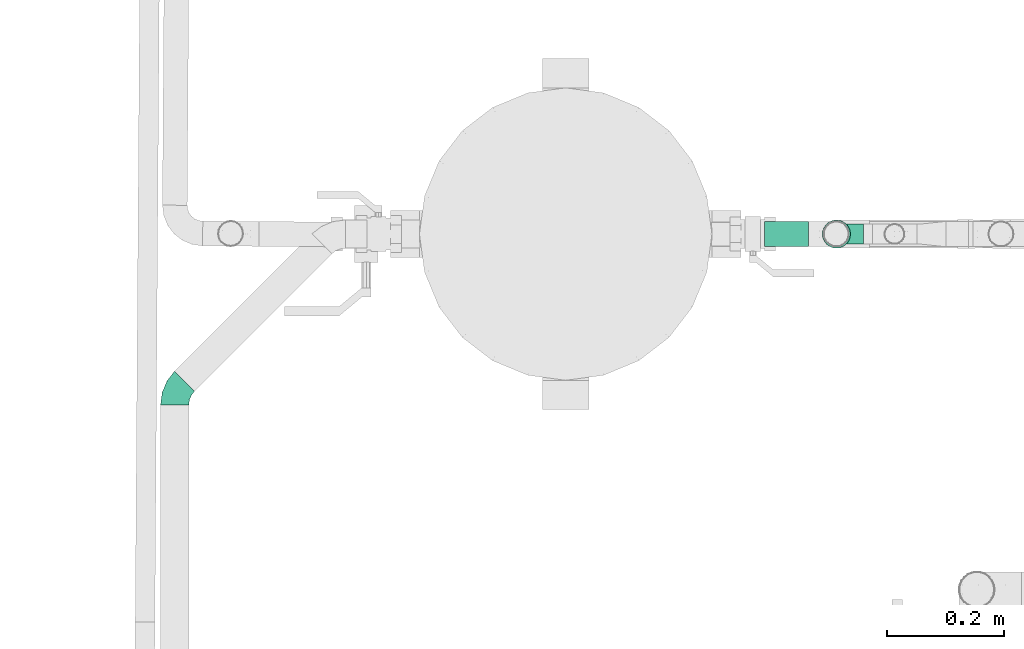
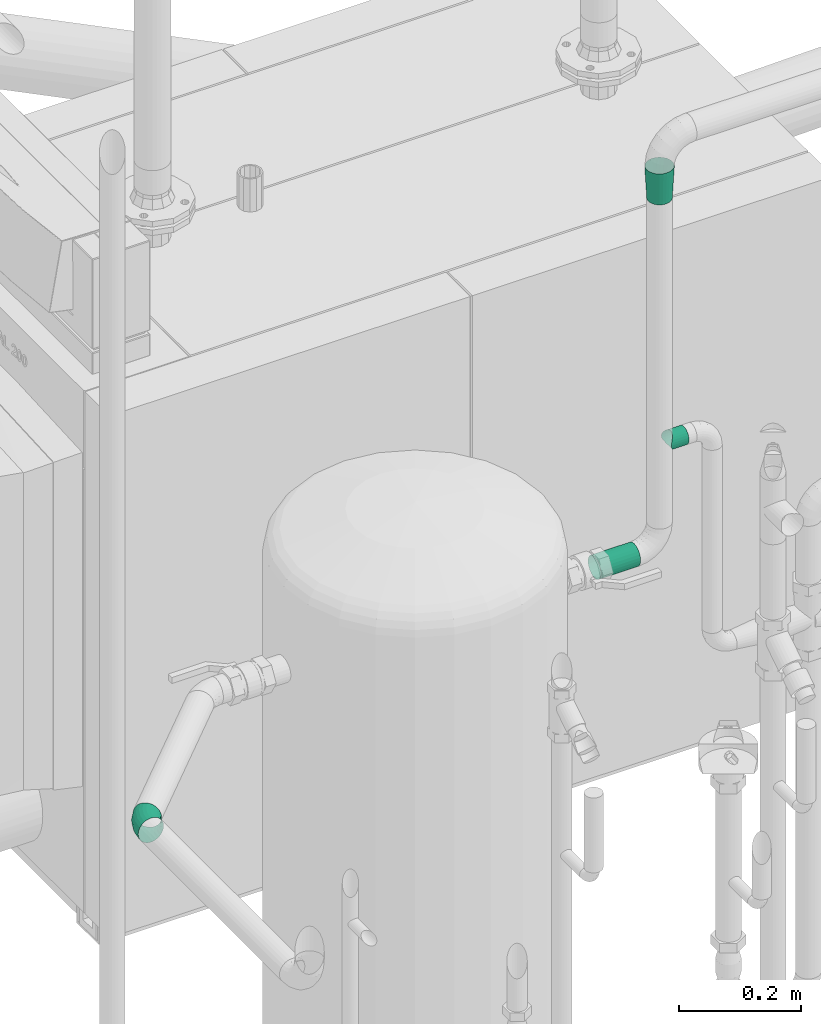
# One storey, part 349 of 374: 3 flow segments, 1 flow fitting.
"""IFC2X3 building model written with IfcOpenShell, lengths in metres."""

import ifcopenshell
import ifcopenshell.guid

model = None  # the IFC model being written
_history = None  # IfcOwnerHistory: only IFC2X3 demands one
_inside = {}  # id of a spatial element -> (the spatial element, [elements in it])
_under = {}  # id of a project, library or spatial element -> (it, [spatial elements below it])
_declared = {}  # id of a project -> (the project, [libraries it declares])
_typed = {}  # id of a type object -> (the type object, [elements of that type])
_made_of = {}  # id of a material, layer set ... -> (it, [elements and type objects made of it])


def new_model(schema):
    """Start an empty IFC model of exactly this schema.

    Asked for "IFC4X3", IfcOpenShell would pick the latest addendum, in which some entities
    have other attributes; the version numbers below select the first issue.
    IFC2X3 requires an IfcOwnerHistory on every rooted entity: one is made here for all.
    """
    global model, _history
    if schema == "IFC4X3":
        model = ifcopenshell.file(schema_version=(4, 3, 0, 0))
    else:
        model = ifcopenshell.file(schema=schema)
    _inside.clear()
    _under.clear()
    _declared.clear()
    _typed.clear()
    _made_of.clear()
    _history = None
    if model.schema == "IFC2X3":
        org = make("IfcOrganization", Name="unknown")
        user = make(
            "IfcPersonAndOrganization",
            ThePerson=make("IfcPerson", FamilyName="unknown"),
            TheOrganization=org,
        )
        app = make(
            "IfcApplication",
            ApplicationDeveloper=org,
            Version="unknown",
            ApplicationFullName="unknown",
            ApplicationIdentifier="unknown",
        )
        _history = make(
            "IfcOwnerHistory",
            OwningUser=user,
            OwningApplication=app,
            ChangeAction="ADDED",
            CreationDate=0,
        )
    return model


def make(cls, **values):
    """One entity of the class cls with the attributes given. An attribute that is None is left unset."""
    return model.create_entity(
        cls, **{name: value for name, value in values.items() if value is not None}
    )


def rooted(cls, **values):
    """An entity with a GlobalId (a new one), such as an element, a storey or a relation."""
    return make(cls, GlobalId=ifcopenshell.guid.new(), OwnerHistory=_history, **values)


def si_unit(unit_type, name, prefix=None):
    """IfcSIUnit, for example si_unit("LENGTHUNIT", "METRE", prefix="MILLI")."""
    return make("IfcSIUnit", UnitType=unit_type, Prefix=prefix, Name=name)


def assignment(units):
    """IfcUnitAssignment: the units of a project."""
    return None if units is None else make("IfcUnitAssignment", Units=units)


def point(xyz):
    """IfcCartesianPoint."""
    return None if xyz is None else make("IfcCartesianPoint", Coordinates=xyz)


def direction(xyz):
    """IfcDirection."""
    return None if xyz is None else make("IfcDirection", DirectionRatios=xyz)


def frame(location, z_axis=None, x_axis=None):
    """IfcAxis2Placement3D, a coordinate frame: its origin and axes. An axis left out is left unset."""
    return make(
        "IfcAxis2Placement3D",
        Location=point(location),
        Axis=direction(z_axis),
        RefDirection=direction(x_axis),
    )


def origin():
    """The frame at (0, 0, 0) with its axes left unset."""
    return frame((0.0, 0.0, 0.0))


def place(relative_to, where):
    """IfcLocalPlacement: puts the frame where relative to a parent placement (None: the world)."""
    return make(
        "IfcLocalPlacement", PlacementRelTo=relative_to, RelativePlacement=where
    )


def context(
    kind, dimensions, precision=None, world=None, true_north=None, identifier=None
):
    """IfcGeometricRepresentationContext, for example the 3D "Model" context."""
    return make(
        "IfcGeometricRepresentationContext",
        ContextIdentifier=identifier,
        ContextType=kind,
        CoordinateSpaceDimension=dimensions,
        Precision=precision,
        WorldCoordinateSystem=world,
        TrueNorth=true_north,
    )


def subcontext(parent, identifier, kind, view, scale=None):
    """IfcGeometricRepresentationSubContext, for example "Body" below "Model"."""
    return make(
        "IfcGeometricRepresentationSubContext",
        ContextIdentifier=identifier,
        ContextType=kind,
        ParentContext=parent,
        TargetScale=scale,
        TargetView=view,
    )


def project(units=None, contexts=None):
    """IfcProject with its units and contexts."""
    return rooted(
        "IfcProject",
        Name="project",
        RepresentationContexts=contexts,
        UnitsInContext=assignment(units),
    )


def spatial(cls, under=None, at=None, **own):
    """A site, building, storey or space (cls), placed at a placement, below another one or the project."""
    s = rooted(cls, ObjectPlacement=at, **own)
    if under is not None:
        _under.setdefault(under.id(), (under, []))[1].append(s)
    return s


def faces_of(points, faces, orient=None, outer=None):
    """IfcFace entities. A face is a list of loops; a loop is a list of indices into points, from 0.

    orient and outer hold one flag for each loop. By default every Orientation is true, the
    first loop of a face is its IfcFaceOuterBound and the others are IfcFaceBound.
    """
    made = []
    for i, loops in enumerate(faces):
        bounds = []
        for j, loop in enumerate(loops):
            is_outer = j == 0 if outer is None else outer[i][j]
            bounds.append(
                make(
                    "IfcFaceOuterBound" if is_outer else "IfcFaceBound",
                    Bound=make("IfcPolyLoop", Polygon=[points[k] for k in loop]),
                    Orientation=True if orient is None else orient[i][j],
                )
            )
        made.append(make("IfcFace", Bounds=bounds))
    return made


def open_shell(faces, orient=None, outer=None):
    """The faces of one IfcOpenShell. surface_model builds it on its shared points."""
    return ("IfcOpenShell", faces, orient, outer)


def surface_model(cls, points, shells):
    """IfcFaceBasedSurfaceModel or IfcShellBasedSurfaceModel (cls): surfaces that need not close."""
    shared = [point(p) for p in points]
    made = [make(c, CfsFaces=faces_of(shared, fs, o, b)) for c, fs, o, b in shells]
    if cls == "IfcFaceBasedSurfaceModel":
        return make(cls, FbsmFaces=made)
    return make(cls, SbsmBoundary=made)


def shape(context_of_items, identifier, shape_type, items):
    """IfcShapeRepresentation: the items that make up one representation, for example the "Body"."""
    return make(
        "IfcShapeRepresentation",
        ContextOfItems=context_of_items,
        RepresentationIdentifier=identifier,
        RepresentationType=shape_type,
        Items=items,
    )


def source(mapping_origin, context_of_items, identifier, shape_type, items):
    """IfcRepresentationMap: a shape defined once, which mapped items show again and again."""
    return make(
        "IfcRepresentationMap",
        MappingOrigin=mapping_origin,
        MappedRepresentation=shape(context_of_items, identifier, shape_type, items),
    )


def transform(
    local_origin,
    x_axis=None,
    y_axis=None,
    z_axis=None,
    scale=None,
    scale2=None,
    scale3=None,
    uniform=True,
):
    """IfcCartesianTransformationOperator3D, or its non-uniform kind. x_axis, y_axis, z_axis: its Axis1, 2, 3."""
    if uniform:
        return make(
            "IfcCartesianTransformationOperator3D",
            Axis1=direction(x_axis),
            Axis2=direction(y_axis),
            LocalOrigin=point(local_origin),
            Scale=scale,
            Axis3=direction(z_axis),
        )
    return make(
        "IfcCartesianTransformationOperator3DnonUniform",
        Axis1=direction(x_axis),
        Axis2=direction(y_axis),
        LocalOrigin=point(local_origin),
        Scale=scale,
        Axis3=direction(z_axis),
        Scale2=scale2,
        Scale3=scale3,
    )


def mapped(mapping_source, mapping_target):
    """IfcMappedItem: shows the shape of a source again, moved by a transform."""
    return make(
        "IfcMappedItem", MappingSource=mapping_source, MappingTarget=mapping_target
    )


def made_of(thing, what):
    """Note that an element or type object is made of a material, layer set ...; save() writes the relation."""
    if what is not None:
        _made_of.setdefault(what.id(), (what, []))[1].append(thing)
    return thing


def element(
    cls,
    number,
    at=None,
    inside=None,
    cuts=None,
    type_object=None,
    material=None,
    context=None,
    identifier="Body",
    shape_type=None,
    held_by="IfcProductDefinitionShape",
    body=None,
    shapes=None,
    **own,
):
    """One element of the class cls, such as IfcWall. Its Tag is "e" and its number.

    at: its placement. inside: the storey or other place that contains it. cuts: it is an
    opening in that element (IfcRelVoidsElement). A single representation is given by context,
    identifier, shape_type and body (its items); several are given by shapes. held_by: the class
    of the entity that holds the representations. save() writes the other relations.
    """
    e = rooted(cls, Tag="e%d" % number, ObjectPlacement=at, **own)
    if body is not None:
        shapes = [shape(context, identifier, shape_type, body)]
    if shapes is not None:
        e.Representation = make(held_by, Representations=shapes)
    if inside is not None:
        _inside.setdefault(inside.id(), (inside, []))[1].append(e)
    if cuts is not None:
        rooted(
            "IfcRelVoidsElement", RelatingBuildingElement=cuts, RelatedOpeningElement=e
        )
    if type_object is not None:
        _typed.setdefault(type_object.id(), (type_object, []))[1].append(e)
    return made_of(e, material)


def aggregate(whole, parts):
    """IfcRelAggregates: a whole, such as a stair, and the parts it consists of."""
    return rooted("IfcRelAggregates", RelatingObject=whole, RelatedObjects=parts)


def save(model, path):
    """Write the relations noted so far, then the file.

    IfcRelAggregates (storeys below a building ...), IfcRelContainedInSpatialStructure (elements
    in a storey), IfcRelDefinesByType, IfcRelAssociatesMaterial and IfcRelDeclares: one each for
    every whole, place, type object, material and project.
    """
    for whole, parts in _under.values():
        aggregate(whole, parts)
    for where, things in _inside.values():
        rooted(
            "IfcRelContainedInSpatialStructure",
            RelatedElements=things,
            RelatingStructure=where,
        )
    for kind, things in _typed.values():
        rooted("IfcRelDefinesByType", RelatedObjects=things, RelatingType=kind)
    for what, things in _made_of.values():
        rooted("IfcRelAssociatesMaterial", RelatedObjects=things, RelatingMaterial=what)
    for by, libraries in _declared.values():
        rooted("IfcRelDeclares", RelatingContext=by, RelatedDefinitions=libraries)
    model.write(path)


model = new_model("IFC2X3")

# Units and contexts
model_context = context("Model", 3, precision=1e-05, world=origin(), true_north=direction((-0.4480736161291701, 0.8939966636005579)))
body_context = subcontext(model_context, "Body", "Model", "MODEL_VIEW")
ifc_project = project(units=[si_unit("LENGTHUNIT", "METRE"), si_unit("AREAUNIT", "SQUARE_METRE"), si_unit("VOLUMEUNIT", "CUBIC_METRE"), si_unit("PLANEANGLEUNIT", "RADIAN"), si_unit("THERMODYNAMICTEMPERATUREUNIT", "KELVIN"), si_unit("MASSUNIT", "GRAM", prefix="KILO"), si_unit("TIMEUNIT", "SECOND")], contexts=[model_context])

# Site, building, storey
site_placement = place(None, origin())
site = spatial("IfcSite", under=ifc_project, at=site_placement, Name="Site 1", CompositionType="ELEMENT")
building_placement = place(site_placement, origin())
building = spatial("IfcBuilding", under=site, at=building_placement, Name="Undefined", CompositionType="ELEMENT")
storey_placement = place(building_placement, origin())
storey = spatial("IfcBuildingStorey", under=building, at=storey_placement, Name="Rez de chauss\x8ee", CompositionType="ELEMENT", Elevation=0.0)

# Flow segment
shared_shape_1 = source(origin(), body_context, "Body", "SurfaceModel", [
    surface_model("IfcFaceBasedSurfaceModel", [(0.0, 0.005534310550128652, 0.0), (0.0, 0.0, 0.0), (0.07520000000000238, 1.776356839e-15, -5.5511151e-17), (0.07520000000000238, 0.005534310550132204, -5.5511151e-17), (0.0, -0.00534573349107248, -0.0014323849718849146), (0.07520000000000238, -0.005345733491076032, -0.0014323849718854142), (0.0, -0.010138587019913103, -0.004199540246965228), (0.07519999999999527, -0.010138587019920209, -0.004199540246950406), (0.0, -0.01405193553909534, -0.008112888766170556), (0.07519999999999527, -0.014051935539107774, -0.00811288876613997), (0.0, -0.016819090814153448, -0.012905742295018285), (0.07519999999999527, -0.016819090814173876, -0.01290574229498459), (0.0, -0.018251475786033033, -0.018251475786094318), (0.07519999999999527, -0.018251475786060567, -0.018251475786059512), (0.0, -0.0182514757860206, -0.02378578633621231), (0.07519999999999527, -0.01825147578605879, -0.023785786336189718), (0.0, -0.01681909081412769, -0.029131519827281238), (0.07519999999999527, -0.016819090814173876, -0.029131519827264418), (0.0, -0.014051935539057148, -0.03392437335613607), (0.07519999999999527, -0.01405193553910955, -0.03392437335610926), (0.0, -0.010138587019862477, -0.037837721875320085), (0.07520000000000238, -0.010138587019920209, -0.037837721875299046), (0.0, -0.005345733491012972, -0.040604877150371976), (0.07520000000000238, -0.005345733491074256, -0.04060487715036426), (0.0, 6.4837024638e-14, -0.042037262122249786), (0.07520000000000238, 1.776356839e-15, -0.04203726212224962), (0.0, 0.005534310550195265, -0.04203726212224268), (0.07520000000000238, 0.005534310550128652, -0.04203726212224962), (0.0, 0.010880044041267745, -0.04060487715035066), (0.07520000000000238, 0.01088004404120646, -0.04060487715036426), (0.0, 0.01567289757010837, -0.03783772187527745), (0.07520000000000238, 0.015672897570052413, -0.037837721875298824), (0.0, 0.019586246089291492, -0.033924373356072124), (0.07520000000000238, 0.019586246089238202, -0.03392437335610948), (0.0, 0.0223534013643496, -0.029131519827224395), (0.07520000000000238, 0.022353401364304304, -0.029131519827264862), (0.0, 0.02378578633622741, -0.023785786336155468), (0.07520000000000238, 0.023785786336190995, -0.02378578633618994), (0.0, 0.023785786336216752, -0.01825147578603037), (0.07520000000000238, 0.02378578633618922, -0.018251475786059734), (0.0, 0.022353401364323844, -0.012905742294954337), (0.07520000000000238, 0.022353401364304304, -0.012905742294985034), (0.0, 0.019586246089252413, -0.008112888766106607), (0.07520000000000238, 0.019586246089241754, -0.00811288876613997), (0.0, 0.015672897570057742, -0.004199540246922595), (0.07520000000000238, 0.015672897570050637, -0.004199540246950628), (0.0, 0.010880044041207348, -0.0014323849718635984), (0.07520000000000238, 0.010880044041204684, -0.0014323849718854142)], [open_shell([[[0, 1, 2, 3]], [[1, 4, 5, 2]], [[4, 6, 7, 5]], [[6, 8, 9, 7]], [[8, 10, 11, 9]], [[10, 12, 13, 11]], [[12, 14, 15, 13]], [[14, 16, 17, 15]], [[16, 18, 19, 17]], [[18, 20, 21, 19]], [[20, 22, 23, 21]], [[22, 24, 25, 23]], [[24, 26, 27, 25]], [[26, 28, 29, 27]], [[28, 30, 31, 29]], [[30, 32, 33, 31]], [[32, 34, 35, 33]], [[34, 36, 37, 35]], [[36, 38, 39, 37]], [[38, 40, 41, 39]], [[40, 42, 43, 41]], [[42, 44, 45, 43]], [[44, 46, 47, 45]], [[46, 0, 3, 47]]])]),
])
flow_segment_1_placement = place(storey_placement, origin())
element("IfcFlowSegment", 1, at=flow_segment_1_placement, inside=storey, Name="Tube acier d'après DIN 2448", ObjectType="Tube acier d'après DIN 2448", context=body_context, shape_type="MappedRepresentation", body=[
    mapped(shared_shape_1, transform((53.975737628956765, 11.702597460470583, 1.3904776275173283), x_axis=(1.0, 0.0, 0.0), y_axis=(0.0, 0.9914448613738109, 0.1305261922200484), z_axis=(0.0, -0.1305261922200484, 0.9914448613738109))),
])

# Flow fitting
shared_shape_2 = source(origin(), body_context, "Body", "SurfaceModel", [
    surface_model("IfcFaceBasedSurfaceModel", [(0.0, 0.0, 0.0), (0.006304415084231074, 0.0, -7.105427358e-15), (0.006304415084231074, 0.00491426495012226, -7.105427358e-15), (0.0, 0.00491426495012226, -7.105427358e-15), (0.01239401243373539, 0.0, -0.0016317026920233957), (0.01239401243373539, 0.00491426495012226, -0.0016317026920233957), (0.017853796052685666, 0.0, -0.004783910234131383), (0.017853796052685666, 0.00491426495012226, -0.004783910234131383), (0.0223116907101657, 0.0, -0.00924180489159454), (0.0223116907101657, 0.00491426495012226, -0.00924180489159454), (0.025463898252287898, 0.0, -0.014701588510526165), (0.025463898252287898, 0.00491426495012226, -0.014701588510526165), (0.02709560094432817, 0.0, -0.02079118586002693), (0.02709560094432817, 0.00491426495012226, -0.02079118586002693), (0.02709560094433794, 0.0, -0.027095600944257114), (0.02709560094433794, 0.00491426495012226, -0.027095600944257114), (0.025463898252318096, 0.0, -0.03318519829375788), (0.025463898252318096, 0.00491426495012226, -0.03318519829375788), (0.022311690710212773, 0.0, -0.03864498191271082), (0.022311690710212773, 0.00491426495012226, -0.03864498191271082), (0.01785379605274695, 0.0, -0.04310287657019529), (0.01785379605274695, 0.00491426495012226, -0.04310287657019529), (0.012394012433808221, 0.0, -0.046255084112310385), (0.012394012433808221, 0.00491426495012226, -0.046255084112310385), (0.0063044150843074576, 0.0, -0.0478867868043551), (0.0063044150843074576, 0.00491426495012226, -0.0478867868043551), (0.0, -2.4868995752e-14, -0.04788678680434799), (7.9047879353e-14, 0.00491426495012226, -0.0478867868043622), (-0.006089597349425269, 0.0, -0.04625508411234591), (-0.006089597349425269, 0.00491426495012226, -0.04625508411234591), (-0.011549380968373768, 0.0, -0.043102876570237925), (-0.011549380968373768, 0.00491426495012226, -0.043102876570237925), (-0.016007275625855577, 0.0, -0.03864498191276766), (-0.016007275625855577, 0.00491426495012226, -0.03864498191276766), (-0.019159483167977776, 0.0, -0.03318519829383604), (-0.019159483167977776, 0.00491426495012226, -0.03318519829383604), (-0.02079118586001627, 0.0, -0.027095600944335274), (-0.02079118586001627, 0.00491426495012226, -0.027095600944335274), (-0.020791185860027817, 0.0, -0.020791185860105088), (-0.020791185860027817, 0.00491426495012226, -0.020791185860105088), (-0.019159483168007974, 0.0, -0.014701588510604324), (-0.019159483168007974, 0.00491426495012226, -0.014701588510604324), (-0.016007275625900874, 0.0, -0.00924180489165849), (-0.016007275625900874, 0.00491426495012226, -0.00924180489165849), (-0.011549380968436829, 0.0, -0.004783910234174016), (-0.011549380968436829, 0.00491426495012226, -0.004783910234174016), (-0.006089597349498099, 0.0, -0.0016317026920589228), (-0.006089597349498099, 0.00491426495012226, -0.0016317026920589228), (0.02417083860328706, 0.05939565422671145, -0.026710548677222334), (0.024170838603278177, 0.05939565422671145, -0.02117623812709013), (0.022738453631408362, 0.05939565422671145, -0.032056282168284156), (0.01997129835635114, 0.05939565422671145, -0.03684913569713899), (0.01605794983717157, 0.05939565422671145, -0.040762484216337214), (0.01126509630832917, 0.05939565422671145, -0.04352963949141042), (0.005919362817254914, 0.05939565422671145, -0.04496202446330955), (0.00038505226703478, 0.059395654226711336, -0.04496202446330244), (-0.004960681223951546, 0.05939565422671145, -0.04352963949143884), (-0.009753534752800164, 0.05939565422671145, -0.040762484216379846), (-0.013666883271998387, 0.05939565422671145, -0.03684913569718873), (-0.01643403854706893, 0.05939565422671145, -0.032056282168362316), (-0.017866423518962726, 0.05939565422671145, -0.026710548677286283), (-0.017866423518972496, 0.05939565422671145, -0.021176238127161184), (-0.016434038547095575, 0.05939565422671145, -0.015830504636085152), (-0.013666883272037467, 0.05939565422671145, -0.011037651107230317), (-0.009753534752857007, 0.05939565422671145, -0.007124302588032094), (-0.004960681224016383, 0.05939565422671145, -0.004357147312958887), (0.0003850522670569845, 0.05939565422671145, -0.0029247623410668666), (0.005919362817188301, 0.05939565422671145, -0.002924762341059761), (0.01126509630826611, 0.05939565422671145, -0.004357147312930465), (0.01605794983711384, 0.05939565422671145, -0.007124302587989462), (0.019971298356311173, 0.05939565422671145, -0.01103765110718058), (0.022738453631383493, 0.05939565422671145, -0.015830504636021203), (0.005919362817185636, 0.06400000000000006, -0.0029247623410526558), (0.0003850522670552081, 0.06400000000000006, -0.0029247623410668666), (0.011265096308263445, 0.06400000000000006, -0.0043571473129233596), (0.016057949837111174, 0.06400000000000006, -0.007124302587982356), (0.01997129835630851, 0.06400000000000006, -0.011037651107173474), (0.022738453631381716, 0.06400000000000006, -0.015830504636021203), (0.02417083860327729, 0.06400000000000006, -0.021176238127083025), (0.024170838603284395, 0.06400000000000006, -0.02671054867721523), (0.022738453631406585, 0.06400000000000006, -0.032056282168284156), (0.019971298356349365, 0.06400000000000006, -0.03684913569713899), (0.016057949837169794, 0.06400000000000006, -0.040762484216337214), (0.011265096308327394, 0.06400000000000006, -0.04352963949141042), (0.0059193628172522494, 0.06400000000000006, -0.04496202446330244), (0.00038505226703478, 0.06400000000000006, -0.04496202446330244), (-0.004960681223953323, 0.06400000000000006, -0.04352963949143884), (-0.00975353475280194, 0.06400000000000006, -0.040762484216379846), (-0.013666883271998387, 0.06400000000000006, -0.03684913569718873), (-0.016434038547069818, 0.06400000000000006, -0.03205628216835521), (-0.01786642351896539, 0.06400000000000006, -0.026710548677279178), (-0.017866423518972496, 0.06400000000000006, -0.021176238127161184), (-0.016434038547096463, 0.06400000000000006, -0.015830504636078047), (-0.013666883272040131, 0.06400000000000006, -0.011037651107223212), (-0.009753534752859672, 0.06400000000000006, -0.007124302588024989), (-0.0049606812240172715, 0.06400000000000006, -0.004357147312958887)], [open_shell([[[0, 1, 2, 3]], [[1, 4, 5, 2]], [[4, 6, 7, 5]], [[6, 8, 9, 7]], [[8, 10, 11, 9]], [[10, 12, 13, 11]], [[12, 14, 15, 13]], [[14, 16, 17, 15]], [[16, 18, 19, 17]], [[18, 20, 21, 19]], [[20, 22, 23, 21]], [[22, 24, 25, 23]], [[24, 26, 27, 25]], [[26, 28, 29, 27]], [[28, 30, 31, 29]], [[30, 32, 33, 31]], [[32, 34, 35, 33]], [[34, 36, 37, 35]], [[36, 38, 39, 37]], [[38, 40, 41, 39]], [[40, 42, 43, 41]], [[42, 44, 45, 43]], [[44, 46, 47, 45]], [[46, 0, 3, 47]], [[13, 15, 48, 49]], [[15, 17, 50, 48]], [[17, 19, 51, 50]], [[19, 21, 52, 51]], [[21, 23, 53, 52]], [[23, 25, 54, 53]], [[25, 27, 55, 54]], [[27, 29, 56, 55]], [[29, 31, 57, 56]], [[31, 33, 58, 57]], [[33, 35, 59, 58]], [[35, 37, 60, 59]], [[37, 39, 61, 60]], [[39, 41, 62, 61]], [[41, 43, 63, 62]], [[43, 45, 64, 63]], [[45, 47, 65, 64]], [[47, 3, 66, 65]], [[3, 2, 67, 66]], [[2, 5, 68, 67]], [[5, 7, 69, 68]], [[7, 9, 70, 69]], [[9, 11, 71, 70]], [[11, 13, 49, 71]], [[66, 67, 72, 73]], [[67, 68, 74, 72]], [[68, 69, 75, 74]], [[69, 70, 76, 75]], [[70, 71, 77, 76]], [[71, 49, 78, 77]], [[49, 48, 79, 78]], [[48, 50, 80, 79]], [[50, 51, 81, 80]], [[51, 52, 82, 81]], [[52, 53, 83, 82]], [[53, 54, 84, 83]], [[54, 55, 85, 84]], [[55, 56, 86, 85]], [[56, 57, 87, 86]], [[57, 58, 88, 87]], [[58, 59, 89, 88]], [[59, 60, 90, 89]], [[60, 61, 91, 90]], [[61, 62, 92, 91]], [[62, 63, 93, 92]], [[63, 64, 94, 93]], [[64, 65, 95, 94]], [[65, 66, 73, 95]]])]),
])
flow_fitting_placement = place(storey_placement, origin())
element("IfcFlowFitting", 2, at=flow_fitting_placement, inside=storey, Name="Réduction", ObjectType="Réduction", context=body_context, shape_type="MappedRepresentation", body=[
    mapped(shared_shape_2, transform((54.098864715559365, 11.683934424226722, 2.1309999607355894), x_axis=(-0.9914448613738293, 0.13052619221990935, 0.0), y_axis=(0.0, 0.0, -1.0), z_axis=(-0.13052619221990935, -0.9914448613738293, 0.0))),
])

# Flow segments
shared_shape_3 = source(origin(), body_context, "Body", "SurfaceModel", [
    surface_model("IfcFaceBasedSurfaceModel", [(0.00045341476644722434, 0.004398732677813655, -5.8980598e-17), (0.0, 0.0, 0.0), (0.025453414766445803, -1.776356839e-15, 1.63064007e-16), (0.025453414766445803, 0.004398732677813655, -5.8980598e-17), (-0.0012925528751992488, -0.004248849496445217, -0.0011384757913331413), (0.025453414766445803, -0.004248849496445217, -0.0011384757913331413), (-0.0032115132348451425, -0.008058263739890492, -0.003337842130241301), (0.025453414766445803, -0.008058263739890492, -0.003337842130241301), (-0.005368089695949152, -0.011168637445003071, -0.0064482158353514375), (0.025453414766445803, -0.011168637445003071, -0.0064482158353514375), (-0.007162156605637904, -0.013368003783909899, -0.010257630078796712), (0.025453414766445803, -0.013368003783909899, -0.010257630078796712), (-0.007881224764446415, -0.014506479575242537, -0.014506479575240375), (0.025453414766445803, -0.014506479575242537, -0.014506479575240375), (-0.007162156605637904, -0.014506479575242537, -0.01890521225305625), (0.025453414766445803, -0.014506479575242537, -0.01890521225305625), (-0.005368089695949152, -0.013368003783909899, -0.023154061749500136), (0.025453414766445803, -0.013368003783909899, -0.023154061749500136), (-0.0032115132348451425, -0.011168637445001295, -0.026963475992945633), (0.025453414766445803, -0.011168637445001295, -0.026963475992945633), (-0.0012925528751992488, -0.008058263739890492, -0.03007384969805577), (0.025453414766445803, -0.008058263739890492, -0.03007384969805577), (0.0, -0.004248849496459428, -0.03227321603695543), (0.025453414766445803, -0.004248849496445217, -0.032273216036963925), (0.00045341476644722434, -1.776356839e-15, -0.03341169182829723), (0.025453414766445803, -1.776356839e-15, -0.03341169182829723), (0.0, 0.00439873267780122, -0.03341169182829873), (0.025453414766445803, 0.004398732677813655, -0.03341169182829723), (-0.0012925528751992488, 0.008647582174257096, -0.0322732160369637), (0.025453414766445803, 0.008647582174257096, -0.0322732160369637), (-0.0032115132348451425, 0.01245699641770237, -0.03007384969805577), (0.025453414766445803, 0.01245699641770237, -0.03007384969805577), (-0.005368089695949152, 0.01556737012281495, -0.026963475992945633), (0.025453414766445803, 0.01556737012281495, -0.026963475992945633), (-0.007162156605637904, 0.017766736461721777, -0.023154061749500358), (0.025453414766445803, 0.017766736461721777, -0.023154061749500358), (-0.007881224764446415, 0.01890521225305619, -0.01890521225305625), (0.025453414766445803, 0.01890521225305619, -0.01890521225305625), (-0.007162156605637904, 0.018905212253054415, -0.01450647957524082), (0.025453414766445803, 0.018905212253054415, -0.01450647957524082), (-0.005368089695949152, 0.017766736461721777, -0.010257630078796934), (0.025453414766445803, 0.017766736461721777, -0.010257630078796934), (-0.0032115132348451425, 0.015567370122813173, -0.0064482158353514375), (0.025453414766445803, 0.015567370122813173, -0.0064482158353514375), (-0.0012925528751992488, 0.01245699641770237, -0.003337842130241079), (0.025453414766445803, 0.01245699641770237, -0.003337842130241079), (0.0, 0.00864758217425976, -0.0011384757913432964), (0.025453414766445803, 0.008647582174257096, -0.0011384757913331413)], [open_shell([[[0, 1, 2, 3]], [[1, 4, 5, 2]], [[4, 6, 7, 5]], [[6, 8, 9, 7]], [[8, 10, 11, 9]], [[10, 12, 13, 11]], [[12, 14, 15, 13]], [[14, 16, 17, 15]], [[16, 18, 19, 17]], [[18, 20, 21, 19]], [[20, 22, 23, 21]], [[22, 24, 25, 23]], [[24, 26, 27, 25]], [[26, 28, 29, 27]], [[28, 30, 31, 29]], [[30, 32, 33, 31]], [[32, 34, 35, 33]], [[34, 36, 37, 35]], [[36, 38, 39, 37]], [[38, 40, 41, 39]], [[40, 42, 43, 41]], [[42, 44, 45, 43]], [[44, 46, 47, 45]], [[46, 0, 3, 47]]])]),
])
flow_segment_2_placement = place(storey_placement, origin())
element("IfcFlowSegment", 3, at=flow_segment_2_placement, inside=storey, Name="Piquage sur circulaire 90°", ObjectType="Piquage sur circulaire 90°", context=body_context, shape_type="MappedRepresentation", body=[
    mapped(shared_shape_3, transform((54.119611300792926, 11.712445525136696, 1.5596643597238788), x_axis=(1.0, 0.0, 0.0), y_axis=(0.0, -0.9914448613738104, -0.13052619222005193), z_axis=(0.0, 0.13052619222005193, -0.9914448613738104))),
])
shared_shape_4 = source(origin(), body_context, "Body", "SurfaceModel", [
    surface_model("IfcFaceBasedSurfaceModel", [(0.021184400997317, 0.0, 0.0), (0.021076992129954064, 0.006303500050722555, 0.0), (0.00010740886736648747, 0.0063035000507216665, 0.0), (0.0, 0.0, 0.0), (-0.020147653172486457, 0.007005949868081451, -0.005381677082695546), (-0.02046256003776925, 0.0007096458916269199, -0.005436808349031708), (-0.03830784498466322, 0.008362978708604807, -0.015778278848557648), (-0.03880878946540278, 0.00208057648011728, -0.015939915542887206), (0.020762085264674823, 0.012388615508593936, -0.0016179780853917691), (0.00042231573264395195, 0.012388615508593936, -0.0016179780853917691), (-0.019224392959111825, 0.013069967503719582, -0.006838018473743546), (-0.03683915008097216, 0.014386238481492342, -0.016922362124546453), (0.02026114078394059, 0.017840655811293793, -0.004743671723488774), (0.0009232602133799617, 0.01784065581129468, -0.004743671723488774), (-0.017755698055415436, 0.018488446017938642, -0.009706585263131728), (-0.03450279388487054, 0.019739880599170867, -0.019294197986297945), (0.01960829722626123, 0.022288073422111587, -0.009164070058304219), (0.0015761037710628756, 0.0222880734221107, -0.009164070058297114), (-0.01584165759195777, 0.022892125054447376, -0.013791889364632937), (-0.031457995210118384, 0.024059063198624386, -0.02273214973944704), (0.01884804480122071, 0.025427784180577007, -0.014577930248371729), (0.002336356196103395, 0.02542778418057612, -0.014577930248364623), (-0.013612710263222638, 0.025980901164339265, -0.01881552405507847), (-0.027912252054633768, 0.027049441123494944, -0.027001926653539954), (0.018032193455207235, 0.027045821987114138, -0.020616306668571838), (0.0031522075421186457, 0.027045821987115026, -0.020616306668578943), (-0.011220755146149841, 0.02754427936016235, -0.02443513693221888), (-0.024107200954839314, 0.028507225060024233, -0.03181255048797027), (0.017216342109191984, 0.02703192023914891, -0.02686769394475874), (0.003968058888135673, 0.02703192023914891, -0.02686769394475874), (-0.008828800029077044, 0.02747571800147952, -0.030267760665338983), (-0.020302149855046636, 0.02833306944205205, -0.03683618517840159), (0.016456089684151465, 0.02538702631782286, -0.03290607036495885), (0.004728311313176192, 0.025387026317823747, -0.03290607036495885), (-0.006599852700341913, 0.02577988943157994, -0.03591591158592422), (-0.016756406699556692, 0.02653884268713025, -0.04173047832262), (0.01580324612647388, 0.022223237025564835, -0.038319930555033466), (0.005381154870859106, 0.022223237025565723, -0.03831993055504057), (-0.004685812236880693, 0.02257236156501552, -0.0409946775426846), (-0.013711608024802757, 0.023246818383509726, -0.04616189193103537), (0.015302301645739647, 0.017756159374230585, -0.04274032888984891), (0.005882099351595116, 0.017756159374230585, -0.04274032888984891), (-0.0032171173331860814, 0.018071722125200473, -0.04515794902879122), (-0.011375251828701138, 0.01868134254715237, -0.0498284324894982), (0.014987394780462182, 0.012290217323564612, -0.045866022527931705), (0.006197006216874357, 0.012290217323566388, -0.045866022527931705), (-0.002293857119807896, 0.012584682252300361, -0.048122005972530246), (-0.009906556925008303, 0.013153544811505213, -0.05248023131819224), (0.014879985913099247, 0.0061979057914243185, -0.047484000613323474), (0.006304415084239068, 0.006197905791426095, -0.047484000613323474), (-0.0019789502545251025, 0.0064851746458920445, -0.049684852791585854), (-0.009405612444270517, 0.007040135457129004, -0.053936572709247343), (0.014987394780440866, -0.00010559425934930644, -0.04748400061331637), (0.006197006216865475, -0.00010559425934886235, -0.047484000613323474), (-0.0022938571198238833, 0.0001888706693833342, -0.049739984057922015), (-0.009906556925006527, 0.0007577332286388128, -0.05409820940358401), (0.015302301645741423, -0.006190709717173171, -0.04586602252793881), (0.005882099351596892, -0.006190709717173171, -0.04586602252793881), (-0.003217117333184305, -0.005875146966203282, -0.04828364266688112), (-0.011375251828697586, -0.0052655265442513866, -0.0529541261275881), (0.015803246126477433, -0.01164275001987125, -0.042740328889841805), (0.0053811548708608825, -0.011642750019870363, -0.04274032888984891), (-0.0046858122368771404, -0.011293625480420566, -0.04541507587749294), (-0.01371160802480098, -0.01061916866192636, -0.05058229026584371), (0.016456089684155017, -0.016090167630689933, -0.03831993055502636), (0.004728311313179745, -0.016090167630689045, -0.03831993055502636), (-0.00659985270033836, -0.015697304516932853, -0.04132977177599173), (-0.01675640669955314, -0.014938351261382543, -0.047144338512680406), (0.017216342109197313, -0.0192298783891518, -0.032906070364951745), (0.003968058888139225, -0.0192298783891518, -0.032906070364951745), (-0.008828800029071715, -0.01878608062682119, -0.036306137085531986), (-0.020302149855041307, -0.01792872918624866, -0.042874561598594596), (0.018032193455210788, -0.020847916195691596, -0.026867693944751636), (0.003152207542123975, -0.020847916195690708, -0.02686769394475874), (-0.011220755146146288, -0.020349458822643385, -0.03068652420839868), (-0.02410720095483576, -0.0193865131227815, -0.03806393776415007), (0.018848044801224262, -0.020834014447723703, -0.020616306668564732), (0.0023363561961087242, -0.02083401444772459, -0.020616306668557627), (-0.01361271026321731, -0.020280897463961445, -0.024853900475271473), (-0.02791225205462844, -0.019212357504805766, -0.03304030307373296), (0.01960829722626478, -0.019189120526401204, -0.014577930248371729), (0.0015761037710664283, -0.019189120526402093, -0.014577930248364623), (-0.015841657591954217, -0.018585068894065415, -0.01920574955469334), (-0.03145799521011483, -0.017418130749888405, -0.028146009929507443), (0.020261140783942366, -0.016025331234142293, -0.009164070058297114), (0.0009232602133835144, -0.016025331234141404, -0.009164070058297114), (-0.017755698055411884, -0.015377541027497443, -0.014126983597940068), (-0.03450279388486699, -0.014126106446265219, -0.023714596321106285), (0.0207620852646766, -0.011558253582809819, -0.004743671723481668), (0.0004223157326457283, -0.011558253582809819, -0.004743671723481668), (-0.019224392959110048, -0.010876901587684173, -0.009963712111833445), (-0.036839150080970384, -0.009560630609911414, -0.020048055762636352), (0.02107699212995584, -0.006092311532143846, -0.0016179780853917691), (0.00010740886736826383, -0.006092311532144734, -0.0016179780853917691), (-0.020147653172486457, -0.005389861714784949, -0.006999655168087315), (-0.03830784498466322, -0.004032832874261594, -0.017396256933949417)], [open_shell([[[0, 1, 2, 3]], [[3, 2, 4, 5]], [[5, 4, 6, 7]], [[1, 8, 9, 2]], [[2, 9, 10, 4]], [[4, 10, 11, 6]], [[8, 12, 13, 9]], [[9, 13, 14, 10]], [[10, 14, 15, 11]], [[12, 16, 17, 13]], [[13, 17, 18, 14]], [[14, 18, 19, 15]], [[16, 20, 21, 17]], [[17, 21, 22, 18]], [[18, 22, 23, 19]], [[20, 24, 25, 21]], [[21, 25, 26, 22]], [[22, 26, 27, 23]], [[24, 28, 29, 25]], [[25, 29, 30, 26]], [[26, 30, 31, 27]], [[28, 32, 33, 29]], [[29, 33, 34, 30]], [[30, 34, 35, 31]], [[32, 36, 37, 33]], [[33, 37, 38, 34]], [[34, 38, 39, 35]], [[36, 40, 41, 37]], [[37, 41, 42, 38]], [[38, 42, 43, 39]], [[40, 44, 45, 41]], [[41, 45, 46, 42]], [[42, 46, 47, 43]], [[44, 48, 49, 45]], [[45, 49, 50, 46]], [[46, 50, 51, 47]], [[48, 52, 53, 49]], [[49, 53, 54, 50]], [[50, 54, 55, 51]], [[52, 56, 57, 53]], [[53, 57, 58, 54]], [[54, 58, 59, 55]], [[56, 60, 61, 57]], [[57, 61, 62, 58]], [[58, 62, 63, 59]], [[60, 64, 65, 61]], [[61, 65, 66, 62]], [[62, 66, 67, 63]], [[64, 68, 69, 65]], [[65, 69, 70, 66]], [[66, 70, 71, 67]], [[68, 72, 73, 69]], [[69, 73, 74, 70]], [[70, 74, 75, 71]], [[72, 76, 77, 73]], [[73, 77, 78, 74]], [[74, 78, 79, 75]], [[76, 80, 81, 77]], [[77, 81, 82, 78]], [[78, 82, 83, 79]], [[80, 84, 85, 81]], [[81, 85, 86, 82]], [[82, 86, 87, 83]], [[84, 88, 89, 85]], [[85, 89, 90, 86]], [[86, 90, 91, 87]], [[88, 92, 93, 89]], [[89, 93, 94, 90]], [[90, 94, 95, 91]], [[92, 0, 3, 93]], [[93, 3, 5, 94]], [[94, 5, 7, 95]]])]),
])
flow_segment_3_placement = place(storey_placement, origin())
element("IfcFlowSegment", 4, at=flow_segment_3_placement, inside=storey, Name="Tube coudé", ObjectType="Tube coudé", context=body_context, shape_type="MappedRepresentation", body=[
    mapped(shared_shape_4, transform((52.95405042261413, 11.456650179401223, 1.3741500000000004), x_axis=(0.6087614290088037, 0.7933533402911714, 0.0), y_axis=(0.10268238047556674, -0.07879096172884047, -0.9915887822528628), z_axis=(-0.7866802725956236, 0.6036410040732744, -0.12942830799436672))),
])

save(model, "model.ifc")
